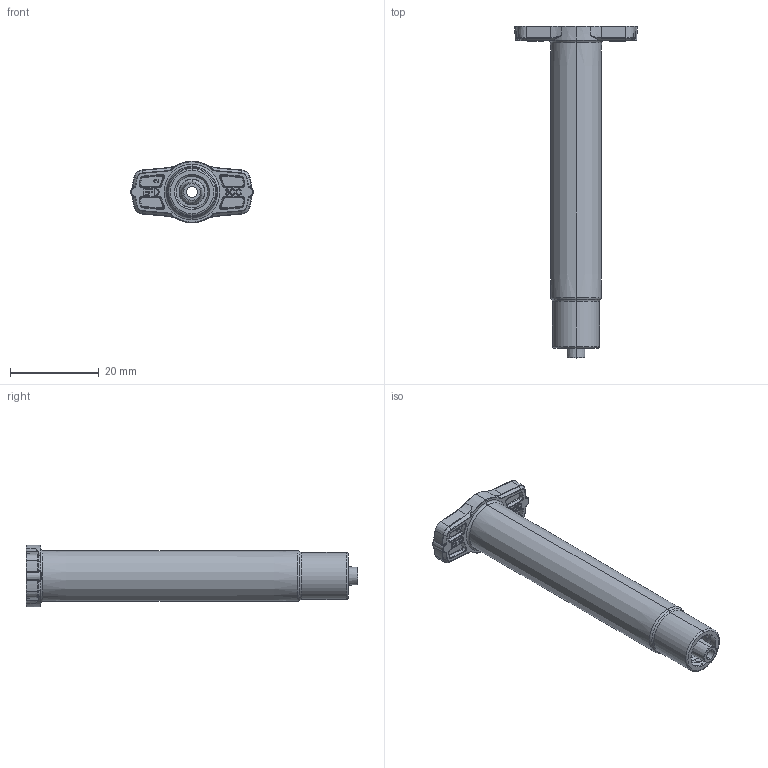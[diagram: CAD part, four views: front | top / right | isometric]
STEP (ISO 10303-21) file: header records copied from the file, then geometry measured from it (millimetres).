
FILE_DESCRIPTION (( 'STEP AP214' ), '1' );
FILE_NAME ('NORDSONEFD-7012014 BARREL O 3CC AM.STEP', '2019-01-30T12:22:16', ( '' ), ( '' ), 'SwSTEP 2.0', 'SolidWorks 2019', '' );
FILE_SCHEMA (( 'AUTOMOTIVE_DESIGN' ));
Length unit declared in the file: inch
Products named in the file (1): NORDSONEFD-7012014 BARREL O 3CC AM
Bounding box: 27.57 x 74.78 x 13.97 mm (x, y, z)
Volume: 3048 mm3; surface area: 5520.7 mm2
Topology: 1 solids, 1 shells, 394 faces, 932 edges, 551 vertices
Faces by surface type: bspline 131, torus 88, plane 80, cylinder 50, cone 45
Entity records: 15753 total; most frequent: CARTESIAN_POINT 7505, ORIENTED_EDGE 1856, DIRECTION 1529, EDGE_CURVE 928, AXIS2_PLACEMENT_3D 617, VERTEX_POINT 551, EDGE_LOOP 411, ADVANCED_FACE 394
